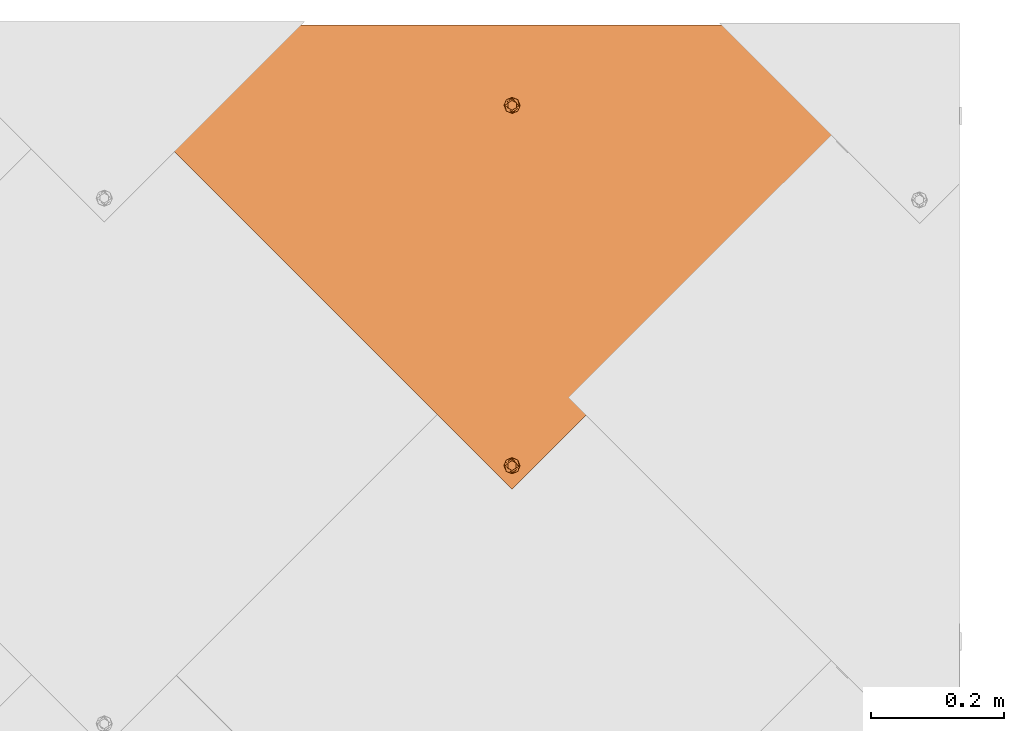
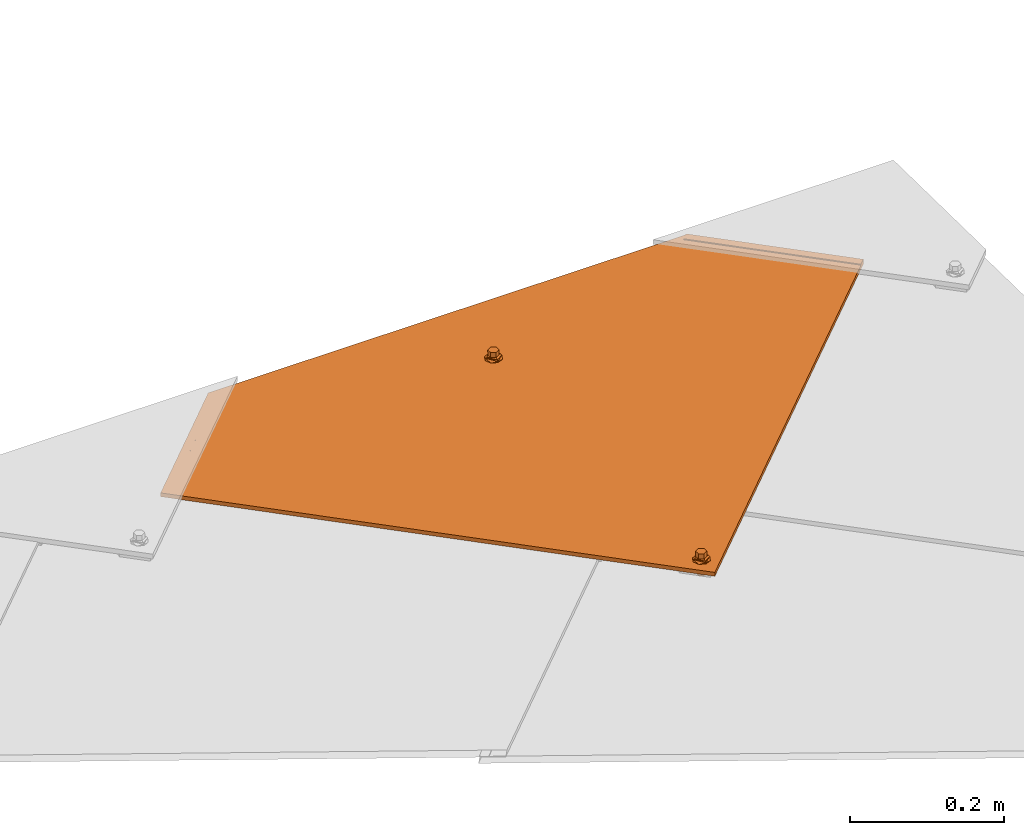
# One storey, part 81 of 133: 1 proxy.
"""IFC2X3 building model written with IfcOpenShell, lengths in millimetres."""

from ifc_helpers import new_model, entity, si_unit, converted_unit, derived_unit, direction, frame, origin, place, context, subcontext, project, spatial, faceted_brep, source, transform, mapped, material, material_list, type_object, type_shapes, element, save


model = new_model("IFC2X3")

# Units and contexts
model_context = context("Model", 3, precision=0.01, world=origin(), true_north=direction((6.12303176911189e-17, 1.0)))
body_context = subcontext(model_context, "Body", "Model", "MODEL_VIEW")
ifc_project = project(units=[si_unit("LENGTHUNIT", "METRE", prefix="MILLI"), si_unit("AREAUNIT", "SQUARE_METRE"), si_unit("VOLUMEUNIT", "CUBIC_METRE"), converted_unit("PLANEANGLEUNIT", "DEGREE", entity("IfcRatioMeasure", 0.0174532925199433), si_unit("PLANEANGLEUNIT", "RADIAN"), dimensions=[0, 0, 0, 0, 0, 0, 0]), si_unit("MASSUNIT", "GRAM", prefix="KILO"), derived_unit("MASSDENSITYUNIT", [(si_unit("MASSUNIT", "GRAM", prefix="KILO"), 1), (si_unit("LENGTHUNIT", "METRE"), -3)]), si_unit("TIMEUNIT", "SECOND"), si_unit("FREQUENCYUNIT", "HERTZ"), si_unit("THERMODYNAMICTEMPERATUREUNIT", "DEGREE_CELSIUS"), derived_unit("THERMALTRANSMITTANCEUNIT", [(si_unit("MASSUNIT", "GRAM", prefix="KILO"), 1), (si_unit("THERMODYNAMICTEMPERATUREUNIT", "KELVIN"), -1), (si_unit("TIMEUNIT", "SECOND"), -3)]), derived_unit("VOLUMETRICFLOWRATEUNIT", [(si_unit("LENGTHUNIT", "METRE"), 3), (si_unit("TIMEUNIT", "SECOND"), -1)]), si_unit("ELECTRICCURRENTUNIT", "AMPERE"), si_unit("ELECTRICVOLTAGEUNIT", "VOLT"), si_unit("POWERUNIT", "WATT"), si_unit("FORCEUNIT", "NEWTON", prefix="KILO"), si_unit("ILLUMINANCEUNIT", "LUX"), si_unit("LUMINOUSFLUXUNIT", "LUMEN"), si_unit("LUMINOUSINTENSITYUNIT", "CANDELA"), derived_unit("USERDEFINED", [(si_unit("MASSUNIT", "GRAM", prefix="KILO"), -1), (si_unit("LENGTHUNIT", "METRE"), -2), (si_unit("TIMEUNIT", "SECOND"), 3), (si_unit("LUMINOUSFLUXUNIT", "LUMEN"), 1)]), derived_unit("LINEARVELOCITYUNIT", [(si_unit("LENGTHUNIT", "METRE"), 1), (si_unit("TIMEUNIT", "SECOND"), -1)]), si_unit("PRESSUREUNIT", "PASCAL"), derived_unit("USERDEFINED", [(si_unit("LENGTHUNIT", "METRE"), -2), (si_unit("MASSUNIT", "GRAM", prefix="KILO"), 1), (si_unit("TIMEUNIT", "SECOND"), -2)])], contexts=[model_context])

# Site, building, storey
site_placement = place(None, origin())
site = spatial("IfcSite", under=ifc_project, at=site_placement, Name="Default", CompositionType="ELEMENT")
building_placement = place(site_placement, origin())
building = spatial("IfcBuilding", under=site, at=building_placement, CompositionType="ELEMENT")
storey_placement = place(building_placement, origin())
storey = spatial("IfcBuildingStorey", under=building, at=storey_placement, Name="Level 1", CompositionType="ELEMENT", Elevation=0.0)

# Proxy
ifc_material_1 = material(Name="Rubber - Sunstyle - Black")
ifc_material_2 = material(Name="Glass - Sunstyle - Tainted Black")
ifc_material_list_1 = material_list([ifc_material_1, ifc_material_2])
ifc_material_list_2 = material_list([ifc_material_1, ifc_material_2])
building_element_proxy_type = type_object("IfcBuildingElementProxyType", Name="Shingle Top - Black", PredefinedType="NOTDEFINED", material=ifc_material_list_2)
shared_shape = source(origin(), body_context, "Body", "Brep", [
    faceted_brep([(-518.396436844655, -96.9865733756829, 16.4476231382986), (-518.396436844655, -96.9614556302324, 17.9474128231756), (-526.881123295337, -88.4767691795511, 17.8053154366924), (-526.881123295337, -88.5018869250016, 16.3055257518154), (-376.996804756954, 61.3404039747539, 13.7960402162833), (-368.512118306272, 52.8557175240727, 13.9381376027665), (-376.996804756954, 61.3655217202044, 15.2958299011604), (-368.512118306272, 52.8808352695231, 15.4379272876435)], [[[0, 1, 2, 3]], [[0, 3, 4, 5]], [[3, 2, 6, 4]], [[2, 1, 7, 6]], [[1, 0, 5, 7]], [[5, 4, 6, 7]]]),
    faceted_brep([(0.166366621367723, -33.6374645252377, -4.47296585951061), (-5.6078362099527, -36.9707346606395, -4.4171418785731), (-5.60783620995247, -36.6024255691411, 17.5747274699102), (0.166366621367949, -33.2691554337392, 17.5189034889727), (-5.60783620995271, -43.6372749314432, -4.30549391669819), (-5.60783620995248, -43.2689658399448, 17.6863754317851), (0.166366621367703, -46.9705450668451, -4.24966993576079), (0.166366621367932, -46.6022359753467, 17.7421994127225), (5.94056945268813, -43.6372749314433, -4.30549391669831), (5.94056945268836, -43.2689658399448, 17.686375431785), (5.94056945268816, -36.9707346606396, -4.41714187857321), (5.94056945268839, -36.6024255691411, 17.5747274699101), (-8.43733754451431, -48.5381935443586, 17.774621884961), (0.16636662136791, -52.1014648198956, 17.8342978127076), (-12.0011084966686, -39.9356957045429, 17.6305514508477), (-8.43733754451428, -31.3331978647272, 17.4864810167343), (0.166366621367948, -27.7699265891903, 17.4268050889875), (8.77007078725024, -31.3331978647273, 17.4864810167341), (12.3338417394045, -39.935695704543, 17.6305514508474), (8.77007078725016, -48.5381935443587, 17.7746218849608), (-11.1578780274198, -37.6406185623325, 19.9433933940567), (-9.59010793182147, -39.8646808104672, 21.8708760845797), (0.166366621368, -32.5516055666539, 22.5035764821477), (0.166366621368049, -31.3111079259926, 21.9232298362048), (0.166366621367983, -29.1535570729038, 20.9138547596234), (0.166366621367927, -51.5454208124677, 19.1093557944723), (0.166366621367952, -50.6018442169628, 21.273060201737), (0.166366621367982, -47.1524685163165, 22.7481046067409), (0.166366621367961, -28.2829626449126, 18.7197675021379), (-6.15687907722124, -43.5022527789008, 22.6869725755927), (-6.15687907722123, -36.2018213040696, 22.5647085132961), (11.4906112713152, -42.1520387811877, 20.0189484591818), (10.0152467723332, -40.9390872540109, 21.7920079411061), (6.48961231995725, -36.2018213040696, 22.564708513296), (6.48961231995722, -43.5022527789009, 22.6869725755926), (-6.15687907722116, -43.3682243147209, 30.68986075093), (0.166366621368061, -47.0184400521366, 30.7509927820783), (0.166366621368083, -39.7180085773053, 30.6287287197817), (-6.15687907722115, -36.0677928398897, 30.5675966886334), (6.48961231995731, -43.368224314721, 30.6898607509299), (6.48961231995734, -36.0677928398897, 30.5675966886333), (0.166366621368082, -32.417577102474, 30.5064646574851), (0.166366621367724, -40.3040047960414, -4.36131789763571)], [[[0, 1, 2, 3]], [[1, 4, 5, 2]], [[4, 6, 7, 5]], [[6, 8, 9, 7]], [[8, 10, 11, 9]], [[10, 0, 3, 11]], [[12, 7, 13]], [[7, 12, 5]], [[14, 5, 12]], [[5, 14, 2]], [[15, 2, 14]], [[3, 2, 15]], [[15, 16, 3]], [[16, 17, 3]], [[11, 3, 17]], [[11, 17, 18]], [[9, 11, 18]], [[18, 19, 9]], [[7, 9, 19]], [[19, 13, 7]], [[20, 14, 12]], [[21, 22, 23, 24]], [[24, 20, 21]], [[25, 20, 12]], [[26, 27, 21]], [[15, 14, 20]], [[12, 13, 25]], [[20, 28, 15]], [[28, 20, 24]], [[21, 27, 29]], [[21, 29, 30]], [[26, 21, 20]], [[20, 25, 26]], [[15, 28, 16]], [[21, 30, 22]], [[31, 18, 17]], [[28, 31, 17]], [[32, 27, 26]], [[26, 31, 32]], [[26, 25, 31]], [[25, 19, 31]], [[17, 16, 28]], [[31, 19, 18]], [[24, 31, 28]], [[33, 34, 32]], [[23, 22, 33]], [[24, 32, 31]], [[27, 32, 34]], [[32, 23, 33]], [[19, 25, 13]], [[32, 24, 23]], [[35, 36, 37]], [[37, 38, 35]], [[36, 39, 37]], [[40, 37, 39]], [[37, 40, 41]], [[37, 41, 38]], [[42, 6, 4]], [[4, 1, 42]], [[1, 0, 42]], [[42, 8, 6]], [[0, 10, 42]], [[8, 42, 10]], [[22, 30, 38, 41]], [[30, 29, 35, 38]], [[29, 27, 36, 35]], [[27, 34, 39, 36]], [[34, 33, 40, 39]], [[33, 22, 41, 40]]]),
    faceted_brep([(0.0, -573.927138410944, 4.00636906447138), (-5.77420283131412, -577.260408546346, 4.0621930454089), (-5.77420283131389, -576.892099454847, 26.0540623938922), (0.0, -573.558829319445, 25.9982384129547), (-5.77420283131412, -583.926948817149, 4.1738410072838), (-5.7742028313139, -583.558639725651, 26.1657103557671), (0.0, -587.260218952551, 4.2296649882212), (0.0, -586.891909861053, 26.2215343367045), (5.77420283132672, -583.926948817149, 4.17384100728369), (5.77420283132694, -583.558639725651, 26.165710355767), (5.77420283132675, -577.260408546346, 4.06219304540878), (5.77420283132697, -576.892099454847, 26.0540623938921), (-8.60370416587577, -588.827867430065, 26.253956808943), (0.0, -592.391138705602, 26.3136327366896), (-12.1674751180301, -580.225369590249, 26.1098863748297), (-8.60370416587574, -571.622871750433, 25.9658159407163), (0.0, -568.059600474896, 25.9061400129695), (8.60370416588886, -571.622871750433, 25.9658159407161), (12.1674751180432, -580.225369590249, 26.1098863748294), (8.60370416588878, -588.827867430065, 26.2539568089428), (-11.3242446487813, -577.930292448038, 28.4227283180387), (-9.75647455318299, -580.154354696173, 30.3502110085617), (0.0, -572.84127945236, 30.9829114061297), (0.0, -571.600781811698, 30.4025647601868), (0.0, -569.44323095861, 29.3931896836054), (0.0, -591.835094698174, 27.5886907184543), (0.0, -590.891518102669, 29.752395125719), (0.0, -587.442142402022, 31.227439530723), (0.0, -568.572636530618, 27.1991024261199), (-6.32324569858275, -583.791926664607, 31.1663074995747), (-6.32324569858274, -576.491495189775, 31.0440434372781), (11.3242446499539, -582.441712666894, 28.4982833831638), (9.84888015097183, -581.228761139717, 30.2713428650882), (6.32324569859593, -576.491495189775, 31.044043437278), (6.32324569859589, -583.791926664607, 31.1663074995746), (-6.32324569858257, -583.657898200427, 39.169195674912), (0.0, -587.308113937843, 39.2303277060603), (0.0, -580.007682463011, 39.1080636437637), (-6.32324569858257, -576.357466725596, 39.0469316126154), (6.32324569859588, -583.657898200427, 39.1691956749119), (6.32324569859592, -576.357466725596, 39.0469316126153), (0.0, -572.70725098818, 38.9857995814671), (0.0, -580.593678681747, 4.11801702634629)], [[[0, 1, 2, 3]], [[1, 4, 5, 2]], [[4, 6, 7, 5]], [[6, 8, 9, 7]], [[8, 10, 11, 9]], [[10, 0, 3, 11]], [[12, 7, 13]], [[7, 12, 5]], [[14, 5, 12]], [[5, 14, 2]], [[15, 2, 14]], [[3, 2, 15]], [[15, 16, 3]], [[16, 17, 3]], [[11, 3, 17]], [[11, 17, 18]], [[9, 11, 18]], [[18, 19, 9]], [[7, 9, 19]], [[19, 13, 7]], [[20, 14, 12]], [[21, 22, 23, 24]], [[24, 20, 21]], [[25, 20, 12]], [[26, 27, 21]], [[15, 14, 20]], [[12, 13, 25]], [[20, 28, 15]], [[28, 20, 24]], [[21, 27, 29]], [[21, 29, 30]], [[26, 21, 20]], [[20, 25, 26]], [[15, 28, 16]], [[21, 30, 22]], [[31, 18, 17]], [[28, 31, 17]], [[32, 27, 26]], [[26, 31, 32]], [[26, 25, 31]], [[25, 19, 31]], [[17, 16, 28]], [[31, 19, 18]], [[24, 31, 28]], [[33, 34, 32]], [[23, 22, 33]], [[24, 32, 31]], [[27, 32, 34]], [[32, 23, 33]], [[19, 25, 13]], [[32, 24, 23]], [[35, 36, 37]], [[37, 38, 35]], [[36, 39, 37]], [[40, 37, 39]], [[37, 40, 41]], [[37, 41, 38]], [[42, 6, 4]], [[4, 1, 42]], [[1, 0, 42]], [[42, 8, 6]], [[0, 10, 42]], [[8, 42, 10]], [[22, 30, 38, 41]], [[30, 29, 35, 38]], [[29, 27, 36, 35]], [[27, 34, 39, 36]], [[34, 33, 40, 39]], [[33, 22, 41, 40]]]),
    faceted_brep([(518.482751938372, -96.8754983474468, 17.9260478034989), (526.967438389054, -88.3908118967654, 17.7839504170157), (526.967438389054, -88.3656941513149, 19.2837401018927), (518.482751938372, -96.8503806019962, 19.4258374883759), (349.749400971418, 71.8105397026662, 15.1009763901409), (358.234087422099, 80.2952261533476, 14.9588790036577), (358.234087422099, 80.3203438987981, 16.4586686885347), (349.749400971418, 71.8356574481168, 16.6007660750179)], [[[0, 1, 2, 3]], [[1, 0, 4, 5]], [[2, 1, 5, 6]], [[3, 2, 6, 7]], [[0, 3, 7, 4]], [[4, 7, 6, 5]]]),
    faceted_brep([(358.234087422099, 80.2952261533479, 14.9588790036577), (6.94661128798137, -35.8890860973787, 16.9046771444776), (7.74581466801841, -37.8182632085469, 16.9369860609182), (5.67526230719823, -34.2324641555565, 16.8769328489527), (8.01840805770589, -39.8885252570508, 16.9716577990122), (7.74581466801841, -41.9587873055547, 17.0063295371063), (6.94661128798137, -43.8879644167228, 17.0386384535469), (526.967438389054, -88.3908118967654, 17.7839504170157), (4.01840805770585, -32.9612934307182, 16.855643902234), (2.08896041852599, -32.1622021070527, 16.8422611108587), (0.0184080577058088, -31.8896469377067, 16.8376964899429), (-358.233442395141, 80.2952261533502, 14.9588790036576), (-2.05214430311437, -32.1622021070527, 16.8422611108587), (-3.98159194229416, -32.9612934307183, 16.855643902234), (-5.63844619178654, -34.2324641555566, 16.8769328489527), (-6.90979517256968, -35.8890860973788, 16.9046771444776), (-7.70899855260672, -37.8182632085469, 16.9369860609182), (-7.98159194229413, -39.8885252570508, 16.9716577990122), (-7.70899855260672, -41.9587873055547, 17.0063295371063), (-6.90979517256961, -43.8879644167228, 17.0386384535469), (-526.966793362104, -88.390811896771, 17.7839504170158), (-5.63844619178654, -45.544586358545, 17.0663827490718), (-5.6568542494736, -574.226981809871, 25.9204974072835), (-6.92820323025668, -575.883603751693, 25.9482417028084), (-7.72740661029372, -577.812780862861, 25.980550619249), (-8.0, -579.883042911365, 26.015222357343), (-7.72740661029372, -581.953304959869, 26.049894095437), (0.000322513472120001, -615.210165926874, 26.6068637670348), (7.72740661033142, -581.953304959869, 26.049894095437), (6.92820323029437, -583.882482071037, 26.0822030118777), (5.65685424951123, -585.53910401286, 26.1099473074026), (4.0, -586.810274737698, 26.1312362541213), (2.070552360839, -587.609366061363, 26.1446190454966), (0.0, -587.881921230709, 26.1491836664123), (-2.0705523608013, -587.609366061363, 26.1446190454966), (-4.0, -586.810274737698, 26.1312362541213), (-5.65685424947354, -585.53910401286, 26.1099473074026), (-6.92820323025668, -583.882482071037, 26.0822030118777), (-4.0, -572.955811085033, 25.8992084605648), (-3.98159194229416, -46.8157570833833, 17.0876716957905), (-2.07055236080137, -572.156719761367, 25.8858256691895), (-2.05214430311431, -47.614848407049, 17.1010544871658), (0.0, -571.884164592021, 25.8812610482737), (0.0184080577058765, -47.8874035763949, 17.1056191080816), (2.07055236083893, -572.156719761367, 25.8858256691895), (2.08896041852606, -47.6148484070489, 17.1010544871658), (4.0, -572.955811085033, 25.8992084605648), (4.01840805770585, -46.8157570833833, 17.0876716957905), (5.65685424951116, -574.226981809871, 25.9204974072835), (5.67526230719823, -45.544586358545, 17.0663827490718), (6.92820323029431, -575.883603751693, 25.9482417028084), (7.72740661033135, -577.812780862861, 25.980550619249), (8.0, -579.883042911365, 26.015222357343), (-358.233442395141, 80.1947551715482, 8.9597202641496), (-6.90979517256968, -35.9895570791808, 10.9055184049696), (-7.70899855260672, -37.9187341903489, 10.9378273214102), (-5.63844619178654, -34.3329351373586, 10.8777741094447), (-7.98159194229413, -39.9889962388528, 10.9724990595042), (-7.70899855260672, -42.0592582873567, 11.0071707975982), (-6.90979517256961, -43.9884353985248, 11.0394797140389), (-526.966793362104, -88.4912828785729, 11.7847916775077), (-3.98159194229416, -33.0617644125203, 10.856485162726), (-2.05214430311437, -32.2626730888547, 10.8431023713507), (0.0184080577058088, -31.9901179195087, 10.8385377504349), (358.234087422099, 80.1947551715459, 8.95972026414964), (2.08896041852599, -32.2626730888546, 10.8431023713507), (4.01840805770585, -33.0617644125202, 10.856485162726), (5.67526230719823, -34.3329351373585, 10.8777741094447), (6.94661128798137, -35.9895570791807, 10.9055184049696), (7.74581466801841, -37.9187341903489, 10.9378273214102), (8.01840805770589, -39.9889962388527, 10.9724990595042), (7.74581466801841, -42.0592582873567, 11.0071707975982), (6.94661128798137, -43.9884353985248, 11.0394797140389), (526.967438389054, -88.4912828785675, 11.7847916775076), (5.67526230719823, -45.645057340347, 11.0672240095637), (5.65685424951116, -574.327452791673, 19.9213386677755), (6.92820323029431, -575.984074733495, 19.9490829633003), (7.72740661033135, -577.913251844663, 19.981391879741), (8.0, -579.983513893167, 20.016063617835), (7.72740661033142, -582.053775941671, 20.050735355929), (0.000322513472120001, -615.310636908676, 20.6077050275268), (-7.72740661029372, -582.053775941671, 20.050735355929), (-6.92820323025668, -583.982953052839, 20.0830442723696), (-5.65685424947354, -585.639574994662, 20.1107885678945), (-4.0, -586.9107457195, 20.1320775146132), (-2.0705523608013, -587.709837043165, 20.1454603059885), (0.0, -587.982392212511, 20.1500249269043), (2.070552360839, -587.709837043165, 20.1454603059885), (4.0, -586.9107457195, 20.1320775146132), (5.65685424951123, -585.639574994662, 20.1107885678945), (6.92820323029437, -583.982953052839, 20.0830442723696), (4.01840805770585, -46.9162280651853, 11.0885129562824), (4.0, -573.056282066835, 19.9000497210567), (2.08896041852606, -47.7153193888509, 11.1018957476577), (2.07055236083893, -572.257190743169, 19.8866669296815), (0.0184080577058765, -47.9878745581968, 11.1064603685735), (0.0, -571.984635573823, 19.8821023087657), (-2.05214430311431, -47.7153193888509, 11.1018957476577), (-2.07055236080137, -572.257190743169, 19.8866669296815), (-3.98159194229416, -46.9162280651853, 11.0885129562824), (-4.0, -573.056282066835, 19.9000497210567), (-5.63844619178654, -45.645057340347, 11.0672240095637), (-5.6568542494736, -574.327452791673, 19.9213386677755), (-6.92820323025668, -575.984074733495, 19.9490829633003), (-7.72740661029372, -577.913251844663, 19.981391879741), (-8.0, -579.983513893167, 20.016063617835)], [[[0, 1, 2]], [[1, 0, 3]], [[0, 2, 4]], [[4, 5, 0]], [[5, 6, 0]], [[7, 0, 6]], [[8, 3, 0]], [[9, 8, 0]], [[10, 9, 0]], [[0, 11, 10]], [[12, 10, 11]], [[13, 12, 11]], [[14, 13, 11]], [[11, 15, 14]], [[15, 11, 16]], [[16, 11, 17]], [[11, 18, 17]], [[18, 11, 19]], [[11, 20, 19]], [[19, 20, 21]], [[20, 22, 21]], [[23, 22, 20]], [[24, 23, 20]], [[24, 20, 25]], [[26, 25, 20]], [[27, 26, 20]], [[7, 28, 27]], [[29, 27, 28]], [[27, 29, 30]], [[30, 31, 27]], [[31, 32, 27]], [[27, 32, 33]], [[27, 33, 34]], [[34, 35, 27]], [[27, 35, 36]], [[36, 37, 27]], [[37, 26, 27]], [[38, 21, 22]], [[38, 39, 21]], [[38, 40, 39]], [[40, 41, 39]], [[40, 42, 41]], [[41, 42, 43]], [[44, 43, 42]], [[44, 45, 43]], [[45, 44, 46]], [[46, 47, 45]], [[46, 48, 47]], [[48, 49, 47]], [[50, 7, 48]], [[48, 7, 49]], [[7, 50, 51]], [[7, 51, 52]], [[52, 28, 7]], [[7, 6, 49]], [[53, 54, 55]], [[54, 53, 56]], [[53, 55, 57]], [[58, 53, 57]], [[59, 53, 58]], [[60, 53, 59]], [[61, 56, 53]], [[62, 61, 53]], [[53, 63, 62]], [[63, 53, 64]], [[65, 63, 64]], [[66, 65, 64]], [[64, 67, 66]], [[67, 64, 68]], [[68, 64, 69]], [[70, 69, 64]], [[71, 70, 64]], [[72, 71, 64]], [[72, 64, 73]], [[72, 73, 74]], [[74, 73, 75]], [[73, 76, 75]], [[76, 73, 77]], [[77, 73, 78]], [[79, 78, 73]], [[79, 73, 80]], [[60, 81, 80]], [[80, 81, 82]], [[80, 82, 83]], [[83, 84, 80]], [[84, 85, 80]], [[85, 86, 80]], [[80, 86, 87]], [[80, 87, 88]], [[80, 88, 89]], [[79, 80, 90]], [[80, 89, 90]], [[75, 91, 74]], [[75, 92, 91]], [[92, 93, 91]], [[93, 92, 94]], [[93, 94, 95]], [[96, 95, 94]], [[97, 95, 96]], [[96, 98, 97]], [[98, 99, 97]], [[98, 100, 99]], [[100, 101, 99]], [[100, 102, 101]], [[60, 101, 102]], [[103, 60, 102]], [[103, 104, 60]], [[104, 105, 60]], [[105, 81, 60]], [[59, 101, 60]], [[27, 20, 60, 80]], [[7, 27, 80, 73]], [[0, 7, 73, 64]], [[25, 105, 104, 24]], [[24, 104, 103, 23]], [[38, 22, 102, 100]], [[102, 22, 23, 103]], [[40, 38, 100, 98]], [[40, 98, 96, 42]], [[42, 96, 94, 44]], [[44, 94, 92, 46]], [[50, 48, 75, 76]], [[75, 48, 46, 92]], [[51, 50, 76, 77]], [[51, 77, 78, 52]], [[52, 78, 79, 28]], [[28, 79, 90, 29]], [[31, 30, 89, 88]], [[29, 90, 89, 30]], [[87, 32, 31, 88]], [[32, 87, 86, 33]], [[34, 33, 86, 85]], [[34, 85, 84, 35]], [[37, 36, 83, 82]], [[35, 84, 83, 36]], [[37, 82, 81, 26]], [[26, 81, 105, 25]], [[17, 57, 55, 16]], [[16, 55, 54, 15]], [[13, 14, 56, 61]], [[56, 14, 15, 54]], [[12, 13, 61, 62]], [[12, 62, 63, 10]], [[10, 63, 65, 9]], [[9, 65, 66, 8]], [[1, 3, 67, 68]], [[67, 3, 8, 66]], [[2, 1, 68, 69]], [[2, 69, 70, 4]], [[4, 70, 71, 5]], [[5, 71, 72, 6]], [[47, 49, 74, 91]], [[74, 49, 6, 72]], [[45, 47, 91, 93]], [[45, 93, 95, 43]], [[43, 95, 97, 41]], [[41, 97, 99, 39]], [[19, 21, 101, 59]], [[101, 21, 39, 99]], [[18, 19, 59, 58]], [[18, 58, 57, 17]], [[11, 0, 64, 53]], [[20, 11, 53, 60]]]),
])
type_shapes(building_element_proxy_type, [shared_shape])
proxy_placement = place(storey_placement, frame((-16541.4622323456, 16730.3934013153, 0.0)))
element("IfcBuildingElementProxy", 1, at=proxy_placement, inside=storey, type_object=building_element_proxy_type, material=ifc_material_list_1, Name="Roofing_Panels_SunStyle_Tile_Shingle-Top:Shingle Top - Black", ObjectType="Roofing_Panels_SunStyle_Tile_Shingle-Top:Shingle Top - Black", context=body_context, shape_type="MappedRepresentation", body=[
    mapped(shared_shape, transform((0.0, 0.0, 0.0), scale=1.0)),
])

save(model, "model.ifc")
